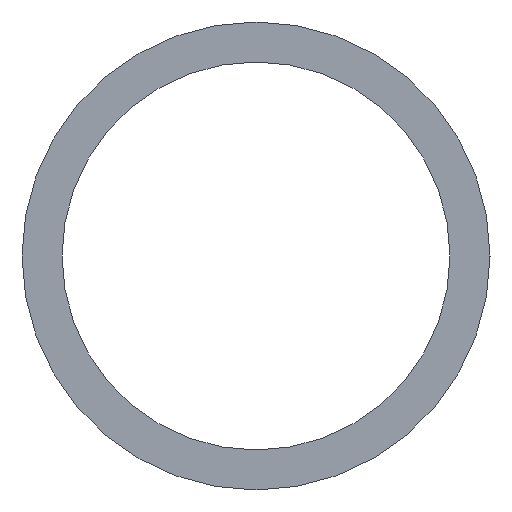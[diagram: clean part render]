
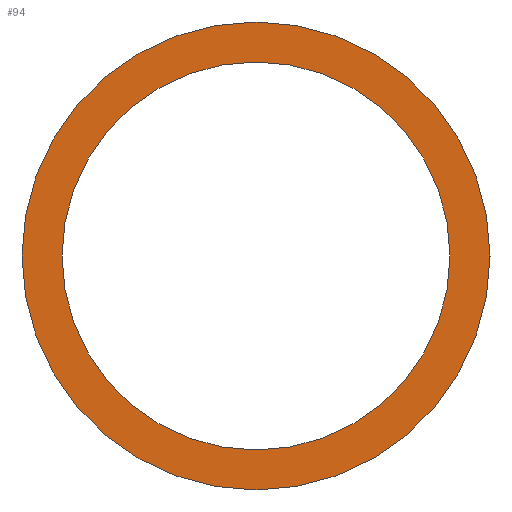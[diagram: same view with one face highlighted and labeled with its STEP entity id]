
A CAD part, left-side view. The second image highlights one B-rep face of the part: STEP entity #94.
In plain terms, the highlighted planar face has unit normal (-1, 0, 0).
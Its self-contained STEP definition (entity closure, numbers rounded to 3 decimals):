
#9 = DIRECTION ( 'NONE',  ( 0., 1., 0. ) ) ;
#10 = DIRECTION ( 'NONE',  ( 0., 1., 0. ) ) ;
#13 = DIRECTION ( 'NONE',  ( 1., 0., 0. ) ) ;
#15 = VERTEX_POINT ( 'NONE', #113 ) ;
#17 = CIRCLE ( 'NONE', #193, 11.15 ) ;
#21 = ORIENTED_EDGE ( 'NONE', *, *, #90, .T. ) ;
#25 = EDGE_LOOP ( 'NONE', ( #51, #21 ) ) ;
#28 = CARTESIAN_POINT ( 'NONE',  ( 37991.853, 3788.45, 2995.85 ) ) ;
#31 = DIRECTION ( 'NONE',  ( 1., 0., 0. ) ) ;
#44 = DIRECTION ( 'NONE',  ( 1., 0., 0. ) ) ;
#51 = ORIENTED_EDGE ( 'NONE', *, *, #109, .T. ) ;
#59 = FACE_BOUND ( 'NONE', #25, .T. ) ;
#61 = CARTESIAN_POINT ( 'NONE',  ( 37991.853, 3786.15, 2995.85 ) ) ;
#63 = EDGE_CURVE ( 'NONE', #15, #185, #189, .T. ) ;
#66 = AXIS2_PLACEMENT_3D ( 'NONE', #179, #197, #10 ) ;
#79 = DIRECTION ( 'NONE',  ( 0., 1., 0. ) ) ;
#80 = CARTESIAN_POINT ( 'NONE',  ( 37991.853, 3763.85, 2995.85 ) ) ;
#88 = CARTESIAN_POINT ( 'NONE',  ( 37991.853, 3775., 2995.85 ) ) ;
#90 = EDGE_CURVE ( 'NONE', #171, #123, #187, .T. ) ;
#92 = CARTESIAN_POINT ( 'NONE',  ( 37991.853, 3775., 2995.85 ) ) ;
#94 = ADVANCED_FACE ( 'NONE', ( #208, #59 ), #124, .F. ) ;
#96 = ORIENTED_EDGE ( 'NONE', *, *, #63, .F. ) ;
#100 = ORIENTED_EDGE ( 'NONE', *, *, #167, .F. ) ;
#109 = EDGE_CURVE ( 'NONE', #123, #171, #17, .T. ) ;
#113 = CARTESIAN_POINT ( 'NONE',  ( 37991.853, 3761.55, 2995.85 ) ) ;
#123 = VERTEX_POINT ( 'NONE', #80 ) ;
#124 = PLANE ( 'NONE',  #139 ) ;
#128 = AXIS2_PLACEMENT_3D ( 'NONE', #209, #162, #160 ) ;
#139 = AXIS2_PLACEMENT_3D ( 'NONE', #88, #44, #142 ) ;
#141 = CARTESIAN_POINT ( 'NONE',  ( 37991.853, 3775., 2995.85 ) ) ;
#142 = DIRECTION ( 'NONE',  ( 0., 1., 0. ) ) ;
#149 = CIRCLE ( 'NONE', #204, 13.45 ) ;
#160 = DIRECTION ( 'NONE',  ( 0., 1., 0. ) ) ;
#162 = DIRECTION ( 'NONE',  ( 1., 0., 0. ) ) ;
#167 = EDGE_CURVE ( 'NONE', #185, #15, #149, .T. ) ;
#171 = VERTEX_POINT ( 'NONE', #61 ) ;
#179 = CARTESIAN_POINT ( 'NONE',  ( 37991.853, 3775., 2995.85 ) ) ;
#185 = VERTEX_POINT ( 'NONE', #28 ) ;
#187 = CIRCLE ( 'NONE', #66, 11.15 ) ;
#189 = CIRCLE ( 'NONE', #128, 13.45 ) ;
#193 = AXIS2_PLACEMENT_3D ( 'NONE', #141, #13, #9 ) ;
#197 = DIRECTION ( 'NONE',  ( 1., 0., 0. ) ) ;
#203 = EDGE_LOOP ( 'NONE', ( #96, #100 ) ) ;
#204 = AXIS2_PLACEMENT_3D ( 'NONE', #92, #31, #79 ) ;
#208 = FACE_OUTER_BOUND ( 'NONE', #203, .T. ) ;
#209 = CARTESIAN_POINT ( 'NONE',  ( 37991.853, 3775., 2995.85 ) ) ;
